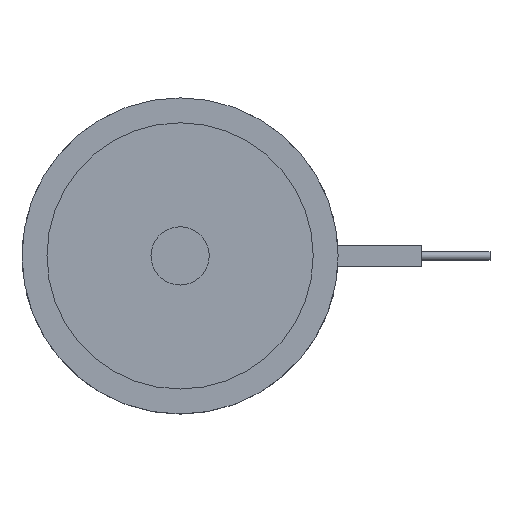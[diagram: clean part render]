
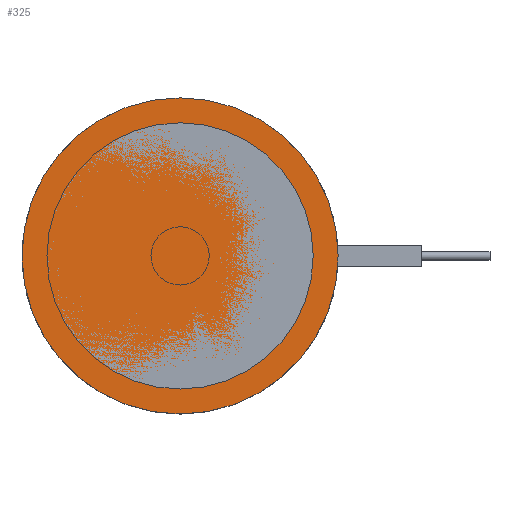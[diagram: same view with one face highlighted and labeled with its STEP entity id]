
A CAD part, top view. The second image highlights one B-rep face of the part: STEP entity #325.
In plain terms, the highlighted planar face has unit normal (0, 0, 1).
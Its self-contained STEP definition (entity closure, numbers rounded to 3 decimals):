
#225=PLANE('',#1100);
#261=FACE_OUTER_BOUND('',#495,.T.);
#325=ADVANCED_FACE('',(#261),#225,.F.);
#495=EDGE_LOOP('',(#627));
#627=ORIENTED_EDGE('',*,*,#912,.F.);
#820=VERTEX_POINT('',#1589);
#912=EDGE_CURVE('',#820,#820,#1011,.T.);
#1011=CIRCLE('',#1099,19.);
#1099=AXIS2_PLACEMENT_3D('',#1588,#1291,#1292);
#1100=AXIS2_PLACEMENT_3D('',#1590,#1293,#1294);
#1291=DIRECTION('',(0.,0.,-1.));
#1292=DIRECTION('',(-1.,0.,0.));
#1293=DIRECTION('',(0.,0.,-1.));
#1294=DIRECTION('',(-1.,0.,0.));
#1588=CARTESIAN_POINT('',(0.,0.,0.));
#1589=CARTESIAN_POINT('',(-19.,0.,0.));
#1590=CARTESIAN_POINT('',(0.,0.,0.));
